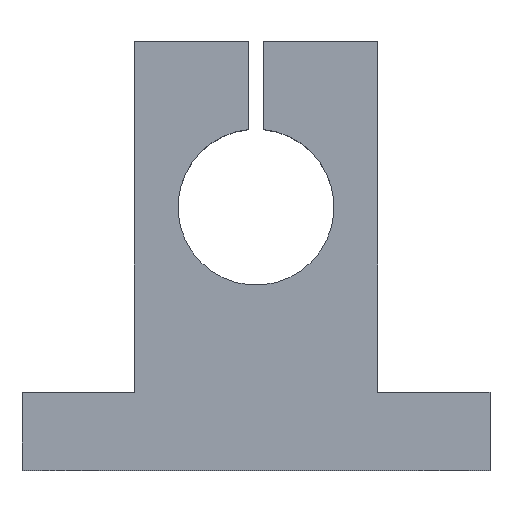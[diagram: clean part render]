
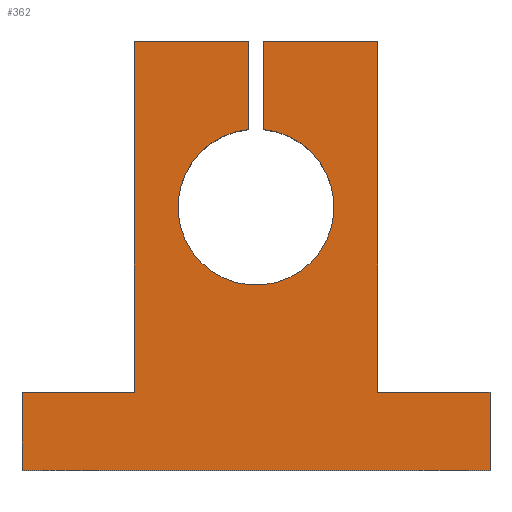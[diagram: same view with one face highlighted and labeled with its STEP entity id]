
A CAD part, top view. The second image highlights one B-rep face of the part: STEP entity #362.
In plain terms, the highlighted planar face has unit normal (0, 0, 1).
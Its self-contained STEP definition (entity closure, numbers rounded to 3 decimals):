
#27=CIRCLE('',#397,8.);
#47=ORIENTED_EDGE('',*,*,#139,.F.);
#48=ORIENTED_EDGE('',*,*,#135,.T.);
#49=ORIENTED_EDGE('',*,*,#140,.T.);
#50=ORIENTED_EDGE('',*,*,#141,.T.);
#51=ORIENTED_EDGE('',*,*,#142,.T.);
#52=ORIENTED_EDGE('',*,*,#143,.T.);
#53=ORIENTED_EDGE('',*,*,#144,.T.);
#54=ORIENTED_EDGE('',*,*,#145,.T.);
#55=ORIENTED_EDGE('',*,*,#146,.T.);
#56=ORIENTED_EDGE('',*,*,#147,.T.);
#57=ORIENTED_EDGE('',*,*,#132,.F.);
#58=ORIENTED_EDGE('',*,*,#148,.F.);
#132=EDGE_CURVE('',#178,#179,#212,.T.);
#135=EDGE_CURVE('',#181,#182,#214,.T.);
#139=EDGE_CURVE('',#181,#185,#218,.T.);
#140=EDGE_CURVE('',#182,#186,#219,.T.);
#141=EDGE_CURVE('',#186,#187,#220,.T.);
#142=EDGE_CURVE('',#187,#188,#221,.T.);
#143=EDGE_CURVE('',#188,#189,#222,.T.);
#144=EDGE_CURVE('',#189,#190,#223,.T.);
#145=EDGE_CURVE('',#190,#191,#224,.T.);
#146=EDGE_CURVE('',#191,#192,#225,.T.);
#147=EDGE_CURVE('',#192,#179,#226,.T.);
#148=EDGE_CURVE('',#185,#178,#27,.T.);
#178=VERTEX_POINT('',#531);
#179=VERTEX_POINT('',#533);
#181=VERTEX_POINT('',#539);
#182=VERTEX_POINT('',#540);
#185=VERTEX_POINT('',#548);
#186=VERTEX_POINT('',#550);
#187=VERTEX_POINT('',#552);
#188=VERTEX_POINT('',#554);
#189=VERTEX_POINT('',#556);
#190=VERTEX_POINT('',#558);
#191=VERTEX_POINT('',#560);
#192=VERTEX_POINT('',#562);
#212=LINE('',#532,#246);
#214=LINE('',#538,#248);
#218=LINE('',#547,#252);
#219=LINE('',#549,#253);
#220=LINE('',#551,#254);
#221=LINE('',#553,#255);
#222=LINE('',#555,#256);
#223=LINE('',#557,#257);
#224=LINE('',#559,#258);
#225=LINE('',#561,#259);
#226=LINE('',#563,#260);
#246=VECTOR('',#431,1000.);
#248=VECTOR('',#437,1000.);
#252=VECTOR('',#443,1000.);
#253=VECTOR('',#444,1000.);
#254=VECTOR('',#445,1000.);
#255=VECTOR('',#446,1000.);
#256=VECTOR('',#447,1000.);
#257=VECTOR('',#448,1000.);
#258=VECTOR('',#449,1000.);
#259=VECTOR('',#450,1000.);
#260=VECTOR('',#451,1000.);
#281=EDGE_LOOP('',(#47,#48,#49,#50,#51,#52,#53,#54,#55,#56,#57,#58));
#315=FACE_BOUND('',#281,.T.);
#348=PLANE('',#396);
#362=ADVANCED_FACE('',(#315),#348,.T.);
#396=AXIS2_PLACEMENT_3D('',#546,#441,#442);
#397=AXIS2_PLACEMENT_3D('',#564,#452,#453);
#431=DIRECTION('',(0.,1.,0.));
#437=DIRECTION('',(-1.,0.,0.));
#441=DIRECTION('',(0.,0.,1.));
#442=DIRECTION('',(1.,0.,0.));
#443=DIRECTION('',(0.,-1.,0.));
#444=DIRECTION('',(0.,-1.,0.));
#445=DIRECTION('',(-1.,0.,0.));
#446=DIRECTION('',(0.,-1.,0.));
#447=DIRECTION('',(1.,0.,0.));
#448=DIRECTION('',(0.,1.,0.));
#449=DIRECTION('',(-1.,0.,0.));
#450=DIRECTION('',(0.,1.,0.));
#451=DIRECTION('',(-1.,0.,0.));
#452=DIRECTION('',(0.,0.,1.));
#453=DIRECTION('',(1.,0.,0.));
#531=CARTESIAN_POINT('',(0.75,7.965,8.));
#532=CARTESIAN_POINT('',(0.75,17.,8.));
#533=CARTESIAN_POINT('',(0.75,17.,8.));
#538=CARTESIAN_POINT('',(12.5,17.,8.));
#539=CARTESIAN_POINT('',(-0.75,17.,8.));
#540=CARTESIAN_POINT('',(-12.5,17.,8.));
#546=CARTESIAN_POINT('',(24.,-19.,8.));
#547=CARTESIAN_POINT('',(-0.75,17.,8.));
#548=CARTESIAN_POINT('',(-0.75,7.965,8.));
#549=CARTESIAN_POINT('',(-12.5,-19.,8.));
#550=CARTESIAN_POINT('',(-12.5,-19.,8.));
#551=CARTESIAN_POINT('',(-24.,-19.,8.));
#552=CARTESIAN_POINT('',(-24.,-19.,8.));
#553=CARTESIAN_POINT('',(-24.,-27.,8.));
#554=CARTESIAN_POINT('',(-24.,-27.,8.));
#555=CARTESIAN_POINT('',(-24.,-27.,8.));
#556=CARTESIAN_POINT('',(24.,-27.,8.));
#557=CARTESIAN_POINT('',(24.,-27.,8.));
#558=CARTESIAN_POINT('',(24.,-19.,8.));
#559=CARTESIAN_POINT('',(24.,-19.,8.));
#560=CARTESIAN_POINT('',(12.5,-19.,8.));
#561=CARTESIAN_POINT('',(12.5,-19.,8.));
#562=CARTESIAN_POINT('',(12.5,17.,8.));
#563=CARTESIAN_POINT('',(12.5,17.,8.));
#564=CARTESIAN_POINT('',(0.,0.,8.));
